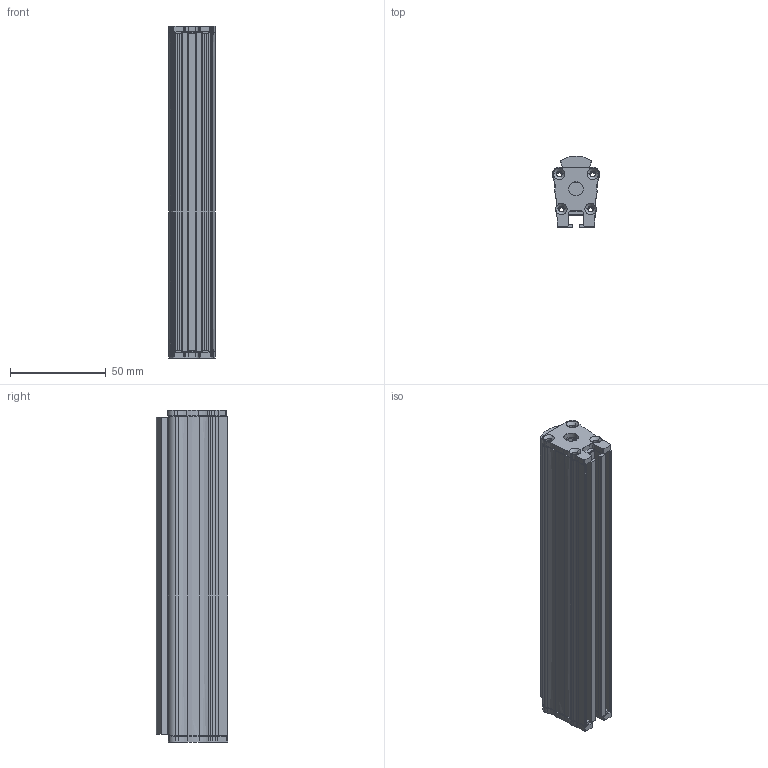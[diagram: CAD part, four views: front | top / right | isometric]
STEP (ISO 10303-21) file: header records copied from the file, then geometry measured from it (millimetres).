
FILE_DESCRIPTION(('STEP AP214'),'1');
FILE_NAME('lin+op 145.stp','2021-02-15T14:39:34',('Blanc'),('Phlox'),'Spatial InterOp 3D',' ',' ');
FILE_SCHEMA(('AUTOMOTIVE_DESIGN { 1 0 10303 214 1 1 1 1 }'));
Length unit declared in the file: inch
Products named in the file (1): Pièce_83634808
Bounding box: 24.54 x 37.28 x 173.56 mm (x, y, z)
Volume: 64555.5 mm3; surface area: 55197 mm2
Topology: 6 solids, 6 shells, 380 faces, 1090 edges, 718 vertices
Faces by surface type: cylinder 211, plane 103, bspline 36, cone 16, extrusion 14
Entity records: 25255 total; most frequent: CARTESIAN_POINT 7269, ORIENTED_EDGE 2180, DIRECTION 2086, STYLED_ITEM 1345, PRESENTATION_STYLE_ASSIGNMENT 1345, COLOUR_RGB 1345, EDGE_CURVE 1090, CURVE_STYLE 959
